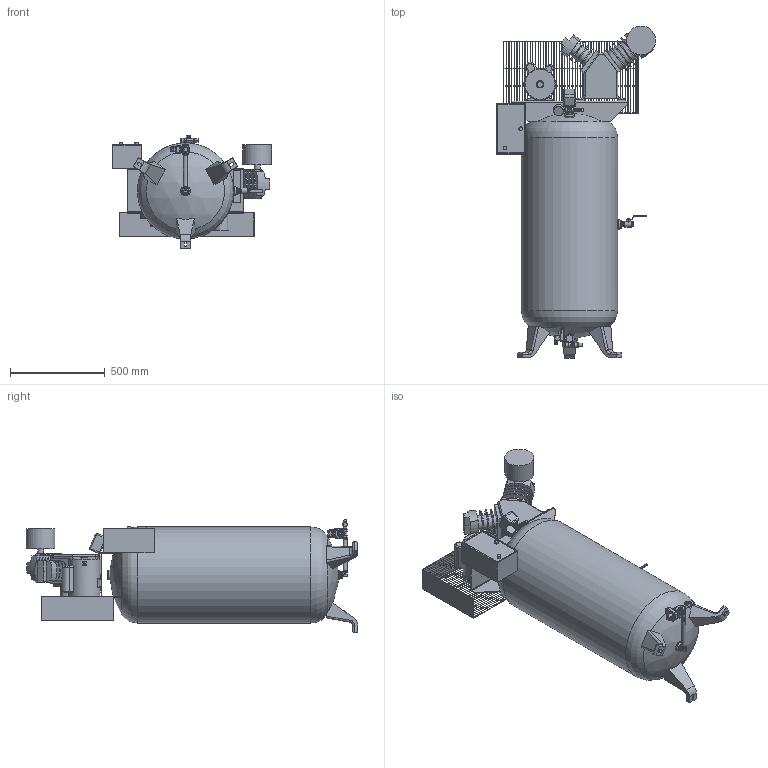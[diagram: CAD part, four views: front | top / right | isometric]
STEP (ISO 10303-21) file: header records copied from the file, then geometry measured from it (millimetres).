
FILE_DESCRIPTION(/* description */ (''),/* implementation_level */ '2;1');
FILE_NAME(/* name */ 'C:\Vault Local\Designs\CAD\Manufacturing\Manufacturing Components\Compressors\TCMP Standalone Air Compressors\TCMP-30\Export\TCMP-30.stp',/* time_stamp */ '2020-12-23T14:06:47-06:00',/* author */ ('Shommes'),/* organization */ (''),/* preprocessor_version */ 'ST-DEVELOPER v18.1',/* originating_system */ 'Autodesk Inventor 2020',/* authorisation */ '');
FILE_SCHEMA (('AUTOMOTIVE_DESIGN { 1 0 10303 214 3 1 1 }'));
Length unit declared in the file: inch
Products named in the file (1): IR2340L5-V Simplex 5hp_Shrinkwrap_1
Bounding box: 840.74 x 1752.64 x 595.91 mm (x, y, z)
Volume: 252667718.7 mm3; surface area: 4421294.8 mm2
Topology: 1 solids, 22 shells, 3046 faces, 9124 edges, 5958 vertices
Faces by surface type: plane 1822, cylinder 601, cone 246, bspline 190, torus 115, sphere 72
Full cylindrical faces by diameter (mm): 3.746 x1, 4.75 x1, 5.5 x2, 6.35 x5, 6.5 x1, 7.493 x2, 9.246 x1, 9.5 x1, 9.525 x1, 10 x1, 10.039 x1, 10.414 x1, 11.239 x1, 12.065 x1, 12.7 x2, 13 x1, 13.716 x7, 14.5 x1, 15.799 x7, 17 x1, 17.018 x2, 17.5 x1, 19.05 x2, 19.431 x6, 21.336 x2, 21.59 x7, 29.972 x1, 31.75 x1, 38.1 x2, 50.8 x5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
Entity records: 281996 total; most frequent: CARTESIAN_POINT 200404, ORIENTED_EDGE 17790, DIRECTION 15399, EDGE_CURVE 9059, VERTEX_POINT 5958, LINE 5531, VECTOR 5531, AXIS2_PLACEMENT_3D 4934
